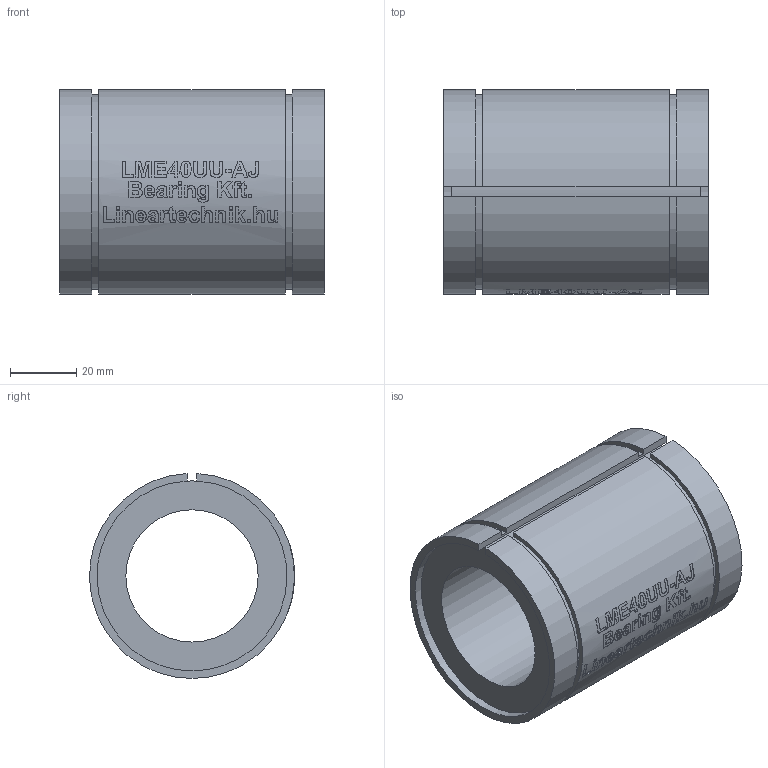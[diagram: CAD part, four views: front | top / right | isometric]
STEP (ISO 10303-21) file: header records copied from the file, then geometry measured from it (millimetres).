
FILE_DESCRIPTION(/* description */ (''),/* implementation_level */ '2;1');
FILE_NAME(/* name */ 'LME40UU-AJ',/* time_stamp */ '2019-07-02T12:06:09+02:00',/* author */ ('VĂ©gh MĂˇtĂ©'),/* organization */ ('Bearing Kft'),/* preprocessor_version */ 'ST-DEVELOPER v16.7',/* originating_system */ 'DEX',/* authorisation */ $);
FILE_SCHEMA (('AP242_MANAGED_MODEL_BASED_3D_ENGINEERING_MIM_LF { 1 0 10303 442 1 1 4 }','AUTOMOTIVE_DESIGN {1 0 10303 214 3 1 1}'));
Length unit declared in the file: millimetre
Products named in the file (1): LME40UU-AJ
Bounding box: 80 x 61.99 x 61.96 mm (x, y, z)
Volume: 132537.4 mm3; surface area: 30892.4 mm2
Topology: 1 solids, 1 shells, 350 faces, 889 edges, 592 vertices
Faces by surface type: plane 191, bspline 99, cylinder 60
Full cylindrical faces by diameter (mm): 40 x1
Entity records: 20086 total; most frequent: CARTESIAN_POINT 12116, ORIENTED_EDGE 1768, DIRECTION 1361, EDGE_CURVE 884, VERTEX_POINT 591, LINE 507, VECTOR 507, AXIS2_PLACEMENT_3D 427
